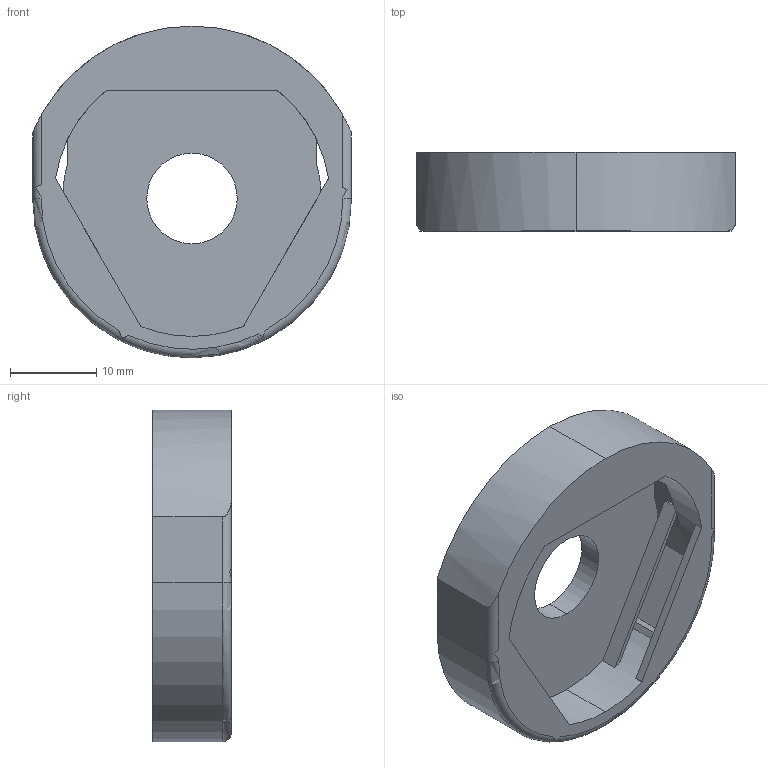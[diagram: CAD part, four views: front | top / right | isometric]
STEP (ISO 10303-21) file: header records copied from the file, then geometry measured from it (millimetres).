
FILE_DESCRIPTION(('Open CASCADE Model'),'2;1');
FILE_NAME('optical-window-support.step','2026-11-14T14:31:58',('Author') ,('Open CASCADE'),'Open CASCADE STEP processor 8.0','Open CASCADE 8.0' ,'Unknown');
FILE_SCHEMA(('AP242_MANAGED_MODEL_BASED_3D_ENGINEERING_MIM_LF {1 0 10303 442 1 1 4 }' ));
Length unit declared in the file: millimetre
Products named in the file (1): Optical Window Support
Bounding box: 37 x 9.11 x 38.5 mm (x, y, z)
Volume: 4387.9 mm3; surface area: 4757.4 mm2
Topology: 1 solids, 1 shells, 120 faces, 335 edges, 215 vertices
Faces by surface type: plane 101, cylinder 16, bspline 2, torus 1
Entity records: 9148 total; most frequent: CARTESIAN_POINT 2575, DIRECTION 1185, LINE 821, VECTOR 821, ORIENTED_EDGE 670, PCURVE 670, DEFINITIONAL_REPRESENTATION 670, EDGE_CURVE 335
